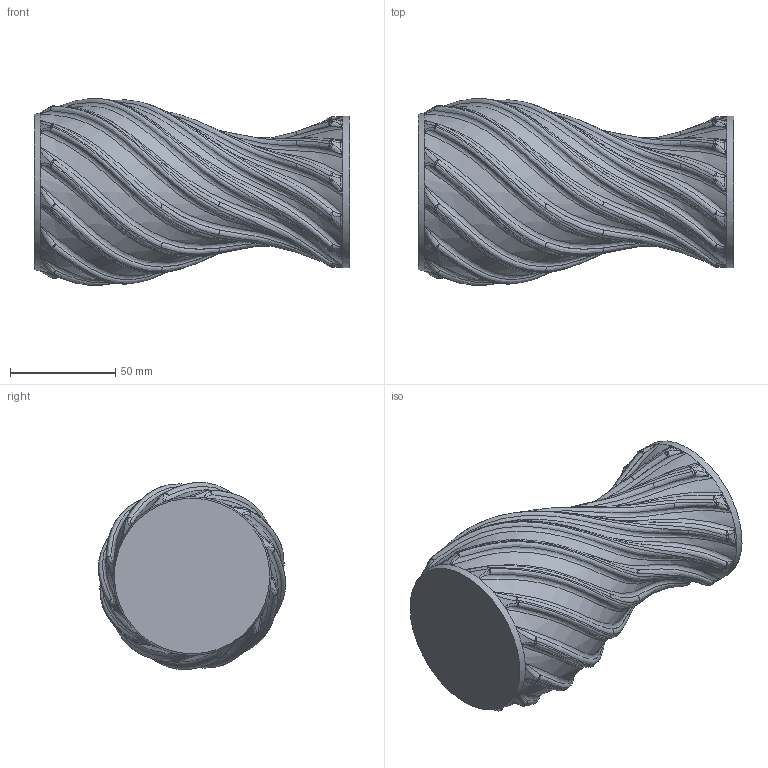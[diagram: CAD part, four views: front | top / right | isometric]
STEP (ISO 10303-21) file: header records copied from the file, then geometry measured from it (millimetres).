
FILE_DESCRIPTION(/* description */ (''),/* implementation_level */ '2;1');
FILE_NAME(/* name */ 'C:\Users\jje\Desktop\Spiral_Vase.stp',/* time_stamp */ '2020-01-16T06:11:05+01:00',/* author */ ('jje'),/* organization */ (''),/* preprocessor_version */ 'ST-DEVELOPER v16.13',/* originating_system */ 'Autodesk Inventor 2018',/* authorisation */ '');
FILE_SCHEMA (('AUTOMOTIVE_DESIGN { 1 0 10303 214 3 1 1 }'));
Products named in the file (1): JJE_Vase
Bounding box: 150 x 88.89 x 88.89 mm (x, y, z)
Volume: 566916 mm3; surface area: 47429.5 mm2
Topology: 1 solids, 1 shells, 376 faces, 926 edges, 526 vertices
Faces by surface type: bspline 254, sphere 48, cone 38, torus 34, plane 2
Entity records: 63043 total; most frequent: CARTESIAN_POINT 55757, ORIENTED_EDGE 1784, DIRECTION 1114, EDGE_CURVE 892, AXIS2_PLACEMENT_3D 557, VERTEX_POINT 520, B_SPLINE_CURVE_WITH_KNOTS 458, CIRCLE 398
